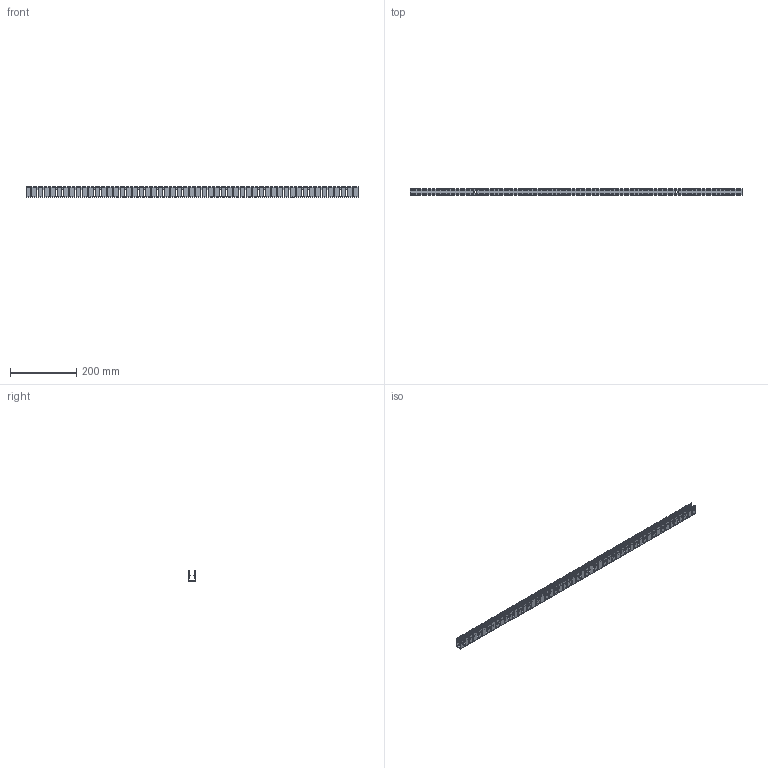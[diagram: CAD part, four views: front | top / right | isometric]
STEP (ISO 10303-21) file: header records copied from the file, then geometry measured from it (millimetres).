
FILE_DESCRIPTION(/* description */ (''),/* implementation_level */ '2;1');
FILE_NAME(/* name */ 'NF_1313_CURVED_PROFILE_CABLE_DUCT_TOP_BEND_L1000_R01.step',/* time_stamp */ '2026-07-24T14:34:18+02:00',/* author */ (''),/* organization */ (''),/* preprocessor_version */ 'ST-DEVELOPER v20.1',/* originating_system */ 'Autodesk Translation Framework v15.8.0.0',/* authorisation */ '');
FILE_SCHEMA (('AUTOMOTIVE_DESIGN { 1 0 10303 214 3 1 1 }'));
Products named in the file (1): 2026-07-19-14-26-56-725
Bounding box: 1000 x 18.87 x 30.48 mm (x, y, z)
Volume: 128887.8 mm3; surface area: 211398 mm2
Topology: 3 solids, 3 shells, 3274 faces, 9804 edges, 6536 vertices
Faces by surface type: plane 2362, cylinder 854, bspline 58
Entity records: 110867 total; most frequent: CARTESIAN_POINT 21233, ORIENTED_EDGE 19608, DIRECTION 17830, EDGE_CURVE 9804, LINE 7980, VECTOR 7980, VERTEX_POINT 6536, AXIS2_PLACEMENT_3D 4925
